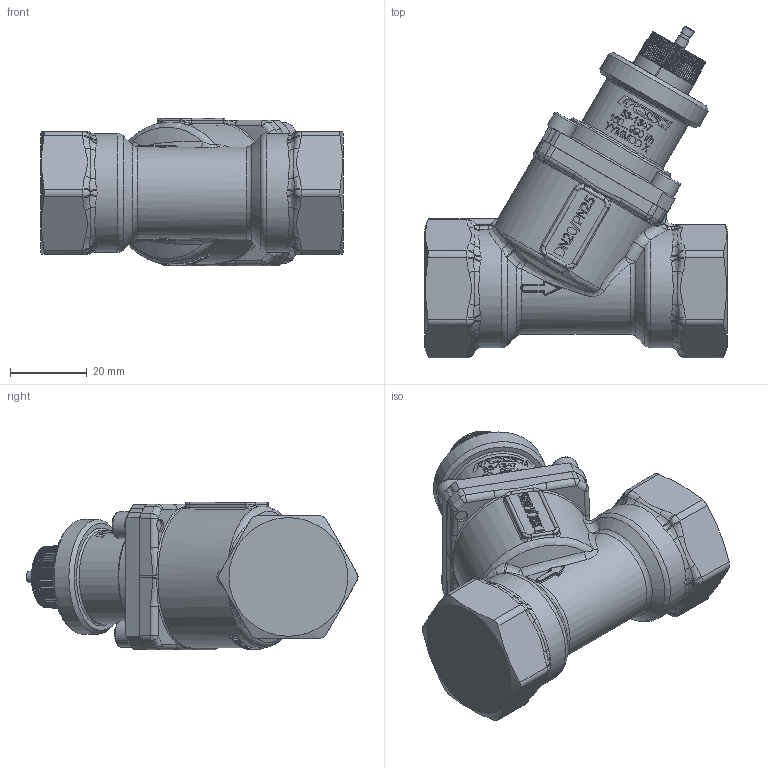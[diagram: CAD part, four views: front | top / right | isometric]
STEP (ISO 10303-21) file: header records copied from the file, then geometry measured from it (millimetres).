
FILE_DESCRIPTION((''),'2;1');
FILE_NAME('F:\Marketing\1marketing\Tegninger\Frese OPTIMA Compact\3D models\OPTIMA Compact FF DN20.stp','2012-09-05T15:32:26',('JJO'),(''),'Autodesk Inventor 2012','Autodesk Inventor 2012','');
FILE_SCHEMA(('AUTOMOTIVE_DESIGN { 1 0 10303 214 1 1 1 1 }'));
Length unit declared in the file: millimetre
Products named in the file (1): 53-1347_Shrinkwrap_1
Bounding box: 79 x 86.67 x 38.5 mm (x, y, z)
Surface area: 44221.5 mm2 (no closed solid volume)
Topology: 0 solids, 61 shells, 3082 faces, 8218 edges, 5309 vertices
Faces by surface type: plane 1576, bspline 696, cylinder 639, torus 102, cone 46, sphere 20, revolution 3
Full cylindrical faces by diameter (mm): 2.5 x1, 3 x3, 3.2 x2, 3.242 x1, 4 x5, 5 x1, 5.2 x1, 5.4 x2, 6 x2, 7 x4, 8 x1, 8.92 x1, 9.1 x1, 9.3 x1, 10 x1, 11 x1, 12.5 x1, 13.9 x2, 14 x1, 15 x2, 15.4 x1, 16.4 x1, 16.5 x2, 17 x1, 17.6 x1, 19 x1, 20 x1, 20.8 x2, 21.5 x1, 21.9 x1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
Entity records: 148216 total; most frequent: CARTESIAN_POINT 72580, ORIENTED_EDGE 16072, DIRECTION 13307, EDGE_CURVE 8036, VERTEX_POINT 5284, AXIS2_PLACEMENT_3D 4653, VECTOR 3998, LINE 3998
